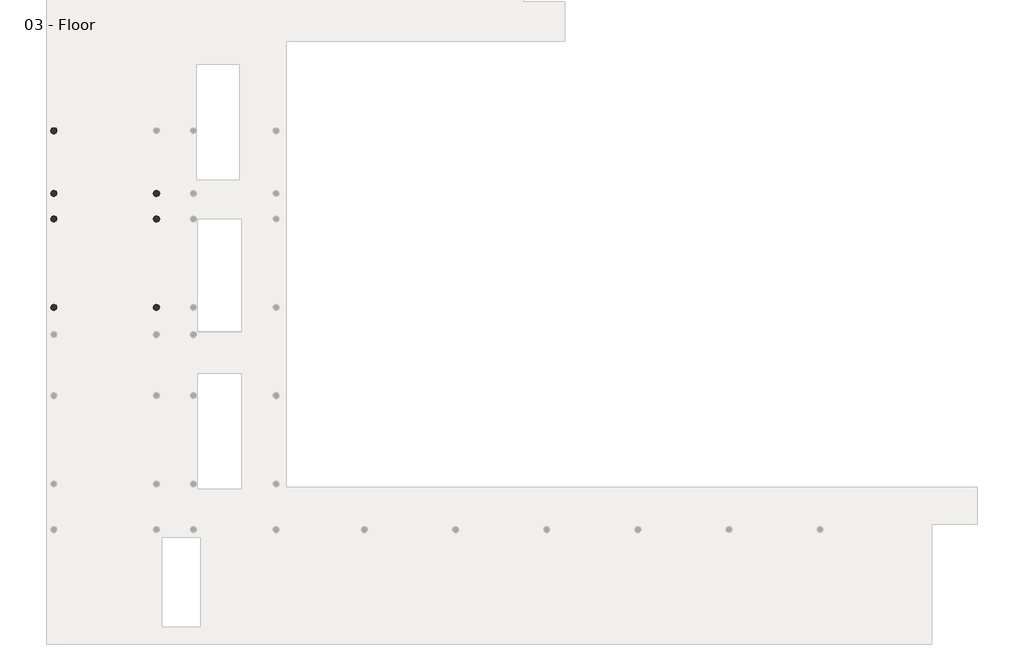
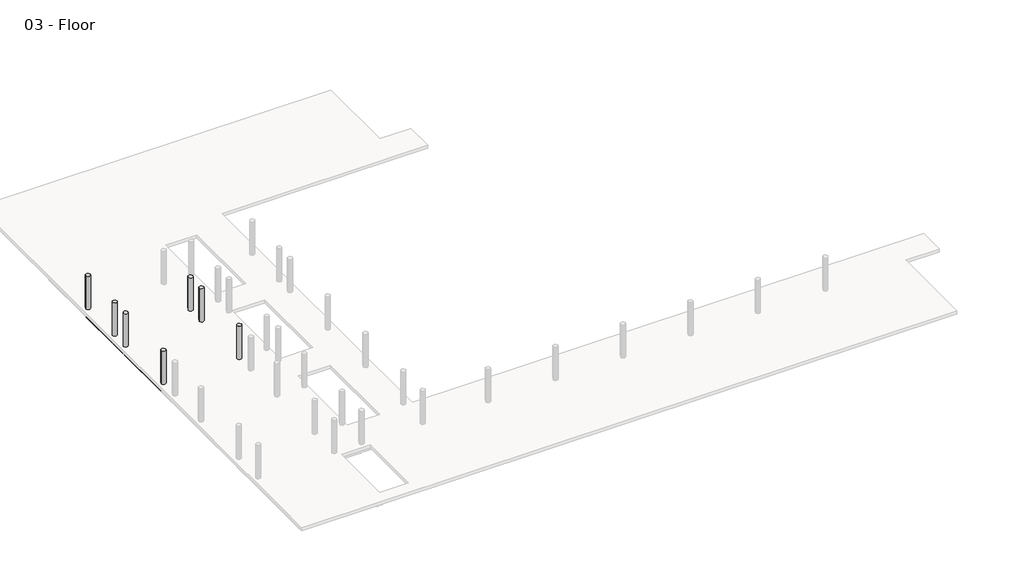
# One storey, part 5 of 8: 13 beams, 7 columns.
"""IFC4 building model written with IfcOpenShell, lengths in millimetres."""

from ifc_helpers import new_model, si_unit, point, frame, frame_2d, origin, place, context, project, spatial, polyline, circle_curve, trimmed, segment, composite_curve, outline, extrude, element, save
from ifc_brep_helpers import plane_surface, revolved_surface, advanced_brep

model = new_model("IFC4")

# Units and contexts
model_context = context("Model", 3, world=origin())
ifc_project = project(units=[si_unit("LENGTHUNIT", "METRE", prefix="MILLI")], contexts=[model_context])

# Site, building, storey
site = spatial("IfcSite", under=ifc_project)
building = spatial("IfcBuilding", under=site)
storey = spatial("IfcBuildingStorey", under=building, Name="03 - Floor", Elevation=7600.0)

# Beams
placement = place(None, origin())
element("IfcBeam", 1, ObjectType="M_Concrete-Rectangular Beam : 400 x 800mm", at=placement, inside=storey, context=model_context, shape_type="AdvancedBrep", body=[
    advanced_brep(
    [(-9401.9994416, 13025.0609793, 6800.0), (-9401.9994416, 8752.0162606, 6800.0), (-9401.9994416, 8752.0162606, 7300.0), (-9401.9994416, 13025.0609793, 7300.0), (-9098.921801, 12928.1386199, 6800.0), (-9001.9994416, 12928.1386199, 6800.0), (-9001.9994416, 8848.9386199, 6800.0), (-9001.9994416, 8752.0162606, 6800.0), (-9001.9994416, 12928.1386199, 7300.0), (-9001.9994416, 8848.9386199, 7300.0), (-9001.9994416, 8752.0162606, 7300.0), (-9098.921801, 12928.1386199, 7300.0)],
    [
        (0, 1),
        (1, 2),
        (2, 3),
        (3, 0),
        (0, 4, circle_curve(frame((-9201.9994416, 13128.1386199, 6800.0), z_axis=(0.0, 0.0, 1.0), x_axis=(-1.0, 0.0, 0.0)), 225.0)),
        (4, 5),
        (5, 6),
        (6, 7),
        (7, 1, circle_curve(frame((-9201.9994416, 8648.9386199, 6800.0), z_axis=(0.0, 0.0, 1.0), x_axis=(1.0, 0.0, 0.0)), 225.0)),
        (5, 8),
        (8, 9),
        (9, 10),
        (10, 7),
        (3, 11, circle_curve(frame((-9201.9994416, 13128.1386199, 7300.0), z_axis=(0.0, 0.0, 1.0), x_axis=(-1.0, 0.0, 0.0)), 225.0)),
        (11, 4),
        (11, 8),
        (10, 2, circle_curve(frame((-9201.9994416, 8648.9386199, 7300.0), z_axis=(0.0, 0.0, 1.0), x_axis=(1.0, 0.0, 0.0)), 225.0)),
    ],
    [
        plane_surface(frame((-9401.9994416, 8886.6386199, 7200.0), z_axis=(-1.0, 0.0, 0.0), x_axis=(0.0, 0.0, -1.0))),
        plane_surface(frame((-9201.9994416, 8886.6386199, 6800.0), z_axis=(0.0, 0.0, -1.0), x_axis=(1.0, 0.0, 0.0))),
        plane_surface(frame((-9001.9994416, 8886.6386199, 7200.0), z_axis=(1.0, 0.0, 0.0), x_axis=(0.0, 0.0, 1.0))),
        revolved_surface(polyline([(-9426.9994416, 13128.1386199, 7300.0), (-9426.9994416, 13128.1386199, 6800.0)]), (-9201.9994416, 13128.1386199, 3800.0), (0.0, 0.0, 1.0)),
        plane_surface(frame((-8964.2994416, 12928.1386199, 6800.0), z_axis=(0.0, 1.0, 0.0), x_axis=(1.0, 0.0, 0.0))),
        revolved_surface(polyline([(-8976.9994416, 8648.9386199, 7300.0), (-8976.9994416, 8648.9386199, 6800.0)]), (-9201.9994416, 8648.9386199, 3800.0), (0.0, 0.0, 1.0)),
        plane_surface(frame((24268.8999097, 30514.0407562, 7300.0), z_axis=(0.0, 0.0, 1.0), x_axis=(0.0, -1.0, 0.0))),
    ],
    [
        (0, [[1, 2, 3, 4]]),
        (1, [[5, 6, 7, 8, 9, -1]]),
        (2, [[-8, -7, 10, 11, 12, 13]]),
        (3, [[-5, -4, 14, 15]]),
        (4, [[-6, -15, 16, -10]]),
        (5, [[-9, -13, 17, -2]]),
        (6, [[-3, -17, -12, -11, -16, -14]]),
    ],
),
])
element("IfcBeam", 2, ObjectType="M_Concrete-Rectangular Beam : 400 x 800mm", at=placement, inside=storey, context=model_context, shape_type="AdvancedBrep", body=[
    advanced_brep(
    [(-9401.9994416, 8545.8609793, 6800.0), (-9401.9994416, 6932.0162606, 6800.0), (-9401.9994416, 6932.0162606, 7300.0), (-9401.9994416, 8545.8609793, 7300.0), (-9001.9994416, 6932.0162606, 6800.0), (-9098.921801, 8448.9386199, 6800.0), (-9001.9994416, 8448.9386199, 6800.0), (-9001.9994416, 7028.9386199, 6800.0), (-9001.9994416, 6932.0162606, 7300.0), (-9001.9994416, 8448.9386199, 7300.0), (-9001.9994416, 7028.9386199, 7300.0), (-9098.921801, 8448.9386199, 7300.0)],
    [
        (0, 1),
        (1, 2),
        (2, 3),
        (3, 0),
        (4, 1, circle_curve(frame((-9201.9994416, 6828.9386199, 6800.0), z_axis=(0.0, 0.0, 1.0), x_axis=(-1.0, 0.0, 0.0)), 225.0)),
        (0, 5, circle_curve(frame((-9201.9994416, 8648.9386199, 6800.0), z_axis=(0.0, 0.0, 1.0), x_axis=(1.0, 0.0, 0.0)), 225.0)),
        (5, 6),
        (6, 7),
        (7, 4),
        (8, 4),
        (6, 9),
        (9, 10),
        (10, 8),
        (8, 2, circle_curve(frame((-9201.9994416, 6828.9386199, 7300.0), z_axis=(0.0, 0.0, 1.0), x_axis=(-1.0, 0.0, 0.0)), 225.0)),
        (3, 11, circle_curve(frame((-9201.9994416, 8648.9386199, 7300.0), z_axis=(0.0, 0.0, 1.0), x_axis=(1.0, 0.0, 0.0)), 225.0)),
        (11, 5),
        (9, 11),
    ],
    [
        plane_surface(frame((-9401.9994416, 7066.6386199, 7200.0), z_axis=(-1.0, 0.0, 0.0), x_axis=(0.0, 0.0, -1.0))),
        plane_surface(frame((-9201.9994416, 7066.6386199, 6800.0), z_axis=(0.0, 0.0, -1.0), x_axis=(1.0, 0.0, 0.0))),
        plane_surface(frame((-9001.9994416, 7066.6386199, 7200.0), z_axis=(1.0, 0.0, 0.0), x_axis=(0.0, 0.0, 1.0))),
        revolved_surface(polyline([(-9426.9994416, 6828.9386199, 7300.0), (-9426.9994416, 6828.9386199, 6800.0)]), (-9201.9994416, 6828.9386199, 3800.0), (0.0, 0.0, 1.0)),
        revolved_surface(polyline([(-8976.9994416, 8648.9386199, 7300.0), (-8976.9994416, 8648.9386199, 6800.0)]), (-9201.9994416, 8648.9386199, 3800.0), (0.0, 0.0, 1.0)),
        plane_surface(frame((24268.8999097, 30514.0407562, 7300.0), z_axis=(0.0, 0.0, 1.0), x_axis=(0.0, -1.0, 0.0))),
        plane_surface(frame((-2124.4994416, 8448.9386199, 7600.0), z_axis=(0.0, 1.0, 0.0), x_axis=(-1.0, 0.0, 0.0))),
    ],
    [
        (0, [[1, 2, 3, 4]]),
        (1, [[5, -1, 6, 7, 8, 9]]),
        (2, [[10, -9, -8, 11, 12, 13]]),
        (3, [[-5, -10, 14, -2]]),
        (4, [[-4, 15, 16, -6]]),
        (5, [[-3, -14, -13, -12, 17, -15]]),
        (6, [[-7, -16, -17, -11]]),
    ],
),
])
element("IfcBeam", 3, ObjectType="M_Concrete-Rectangular Beam : 400 x 800mm", at=placement, inside=storey, context=model_context, shape_type="AdvancedBrep", body=[
    advanced_brep(
    [(-9401.9994416, 6725.8609793, 6800.0), (-9401.9994416, 632.8162606, 6800.0), (-9401.9994416, 632.8162606, 7300.0), (-9401.9994416, 6725.8609793, 7300.0), (-9098.921801, 6628.9386199, 6800.0), (-9001.9994416, 6628.9386199, 6800.0), (-9001.9994416, 729.7386199, 6800.0), (-9001.9994416, 632.8162606, 6800.0), (-9001.9994416, 6628.9386199, 7300.0), (-9001.9994416, 729.7386199, 7300.0), (-9001.9994416, 632.8162606, 7300.0), (-9098.921801, 6628.9386199, 7300.0)],
    [
        (0, 1),
        (1, 2),
        (2, 3),
        (3, 0),
        (0, 4, circle_curve(frame((-9201.9994416, 6828.9386199, 6800.0), z_axis=(0.0, 0.0, 1.0), x_axis=(-1.0, 0.0, 0.0)), 225.0)),
        (4, 5),
        (5, 6),
        (6, 7),
        (7, 1, circle_curve(frame((-9201.9994416, 529.7386199, 6800.0), z_axis=(0.0, 0.0, 1.0), x_axis=(-1.0, 0.0, 0.0)), 225.0)),
        (5, 8),
        (8, 9),
        (9, 10),
        (10, 7),
        (3, 11, circle_curve(frame((-9201.9994416, 6828.9386199, 7300.0), z_axis=(0.0, 0.0, 1.0), x_axis=(-1.0, 0.0, 0.0)), 225.0)),
        (11, 4),
        (11, 8),
        (10, 2, circle_curve(frame((-9201.9994416, 529.7386199, 7300.0), z_axis=(0.0, 0.0, 1.0), x_axis=(-1.0, 0.0, 0.0)), 225.0)),
    ],
    [
        plane_surface(frame((-9401.9994416, 767.4386199, 7200.0), z_axis=(-1.0, 0.0, 0.0), x_axis=(0.0, 0.0, -1.0))),
        plane_surface(frame((-9201.9994416, 767.4386199, 6800.0), z_axis=(0.0, 0.0, -1.0), x_axis=(1.0, 0.0, 0.0))),
        plane_surface(frame((-9001.9994416, 767.4386199, 7200.0), z_axis=(1.0, 0.0, 0.0), x_axis=(0.0, 0.0, 1.0))),
        revolved_surface(polyline([(-9426.9994416, 6828.9386199, 7300.0), (-9426.9994416, 6828.9386199, 6800.0)]), (-9201.9994416, 6828.9386199, 3800.0), (0.0, 0.0, 1.0)),
        plane_surface(frame((-8964.2994416, 6628.9386199, 6800.0), z_axis=(0.0, 1.0, 0.0), x_axis=(1.0, 0.0, 0.0))),
        revolved_surface(polyline([(-9426.9994416, 529.7386199, 7300.0), (-9426.9994416, 529.7386199, 6800.0)]), (-9201.9994416, 529.7386199, 3800.0), (0.0, 0.0, 1.0)),
        plane_surface(frame((24268.8999097, 30514.0407562, 7300.0), z_axis=(0.0, 0.0, 1.0), x_axis=(0.0, -1.0, 0.0))),
    ],
    [
        (0, [[1, 2, 3, 4]]),
        (1, [[5, 6, 7, 8, 9, -1]]),
        (2, [[-8, -7, 10, 11, 12, 13]]),
        (3, [[-5, -4, 14, 15]]),
        (4, [[-6, -15, 16, -10]]),
        (5, [[-9, -13, 17, -2]]),
        (6, [[-3, -17, -12, -11, -16, -14]]),
    ],
),
])
element("IfcBeam", 4, ObjectType="M_Concrete-Rectangular Beam : 400 x 800mm", at=placement, inside=storey, context=model_context, shape_type="AdvancedBrep", body=[
    advanced_brep(
    [(554.8005584, 7028.9386199, 6800.0), (-1586.7994416, 7028.9386199, 6800.0), (-1586.7994416, 7028.9386199, 7300.0), (554.8005584, 7028.9386199, 7300.0), (554.8005584, 6932.0162606, 6800.0), (529.8005584, 6828.9386199, 6800.0), (651.7229178, 6628.9386199, 6800.0), (554.8005584, 6628.9386199, 6800.0), (-1586.7994416, 6628.9386199, 6800.0), (651.7229178, 6628.9386199, 7300.0), (554.8005584, 6628.9386199, 7300.0), (-1586.7994416, 6628.9386199, 7300.0), (554.8005584, 6932.0162606, 7300.0), (529.8005584, 6828.9386199, 7300.0)],
    [
        (0, 1),
        (1, 2),
        (2, 3),
        (3, 0),
        (0, 4),
        (4, 5, circle_curve(frame((754.8005584, 6828.9386199, 6800.0), z_axis=(0.0, 0.0, 1.0), x_axis=(-1.0, 0.0, 0.0)), 225.0)),
        (5, 6, circle_curve(frame((754.8005584, 6828.9386199, 6800.0), z_axis=(0.0, 0.0, 1.0), x_axis=(-1.0, 0.0, 0.0)), 225.0)),
        (6, 7),
        (7, 8),
        (8, 1),
        (6, 9),
        (9, 10),
        (10, 11),
        (11, 8),
        (3, 12),
        (12, 4),
        (5, 13),
        (13, 9, circle_curve(frame((754.8005584, 6828.9386199, 7300.0), z_axis=(0.0, 0.0, 1.0), x_axis=(-1.0, 0.0, 0.0)), 225.0)),
        (12, 13, circle_curve(frame((754.8005584, 6828.9386199, 7300.0), z_axis=(0.0, 0.0, 1.0), x_axis=(-1.0, 0.0, 0.0)), 225.0)),
        (11, 2),
    ],
    [
        plane_surface(frame((-1649.0994416, 7028.9386199, 7200.0), z_axis=(0.0, 1.0, 0.0), x_axis=(0.0, 0.0, -1.0))),
        plane_surface(frame((-1649.0994416, 6828.9386199, 6800.0), z_axis=(0.0, 0.0, -1.0), x_axis=(0.0, -1.0, 0.0))),
        plane_surface(frame((-1649.0994416, 6628.9386199, 7200.0), z_axis=(0.0, -1.0, 0.0), x_axis=(0.0, 0.0, 1.0))),
        plane_surface(frame((554.8005584, 7066.6386199, 7200.0), z_axis=(1.0, 0.0, 0.0), x_axis=(0.0, 0.0, -1.0))),
        revolved_surface(polyline([(529.8005584, 6828.9386199, 7300.0), (529.8005584, 6828.9386199, 6800.0)]), (754.8005584, 6828.9386199, 3800.0), (0.0, 0.0, 1.0)),
        plane_surface(frame((-1586.7994416, 7066.6386199, 7150.0), z_axis=(-1.0, 0.0, 0.0), x_axis=(0.0, 0.0, 1.0))),
        plane_surface(frame((24268.8999097, 30514.0407562, 7300.0), z_axis=(0.0, 0.0, 1.0), x_axis=(0.0, -1.0, 0.0))),
    ],
    [
        (0, [[1, 2, 3, 4]]),
        (1, [[5, 6, 7, 8, 9, 10, -1]]),
        (2, [[-9, -8, 11, 12, 13, 14]]),
        (3, [[-5, -4, 15, 16]]),
        (4, [[-7, 17, 18, -11]]),
        (4, [[-6, -16, 19, -17]]),
        (5, [[-10, -14, 20, -2]]),
        (6, [[-3, -20, -13, -12, -18, -19, -15]]),
    ],
),
])
element("IfcBeam", 5, ObjectType="M_Concrete-Rectangular Beam : 400 x 800mm", at=placement, inside=storey, context=model_context, shape_type="AdvancedBrep", body=[
    advanced_brep(
    [(-2186.7994416, 7028.9386199, 6800.0), (-9001.9994416, 7028.9386199, 6800.0), (-9001.9994416, 7028.9386199, 7300.0), (-2186.7994416, 7028.9386199, 7300.0), (-9001.9994416, 6932.0162606, 6800.0), (-2186.7994416, 6628.9386199, 6800.0), (-9001.9994416, 6628.9386199, 6800.0), (-9098.921801, 6628.9386199, 6800.0), (-8976.9994416, 6828.9386199, 6800.0), (-2186.7994416, 6628.9386199, 7300.0), (-9001.9994416, 6628.9386199, 7300.0), (-9098.921801, 6628.9386199, 7300.0), (-9001.9994416, 6932.0162606, 7300.0), (-8976.9994416, 6828.9386199, 7300.0)],
    [
        (0, 1),
        (1, 2),
        (2, 3),
        (3, 0),
        (4, 1),
        (0, 5),
        (5, 6),
        (6, 7),
        (7, 8, circle_curve(frame((-9201.9994416, 6828.9386199, 6800.0), z_axis=(0.0, 0.0, 1.0), x_axis=(-1.0, 0.0, 0.0)), 225.0)),
        (8, 4, circle_curve(frame((-9201.9994416, 6828.9386199, 6800.0), z_axis=(0.0, 0.0, 1.0), x_axis=(-1.0, 0.0, 0.0)), 225.0)),
        (5, 9),
        (9, 10),
        (10, 11),
        (11, 7),
        (4, 12),
        (12, 2),
        (11, 13, circle_curve(frame((-9201.9994416, 6828.9386199, 7300.0), z_axis=(0.0, 0.0, 1.0), x_axis=(-1.0, 0.0, 0.0)), 225.0)),
        (13, 8),
        (13, 12, circle_curve(frame((-9201.9994416, 6828.9386199, 7300.0), z_axis=(0.0, 0.0, 1.0), x_axis=(-1.0, 0.0, 0.0)), 225.0)),
        (3, 9),
    ],
    [
        plane_surface(frame((-8964.2994416, 7028.9386199, 7600.0), z_axis=(0.0, 1.0, 0.0), x_axis=(1.0, 0.0, 0.0))),
        plane_surface(frame((-8964.2994416, 7028.9386199, 6800.0), z_axis=(0.0, 0.0, -1.0), x_axis=(1.0, 0.0, 0.0))),
        plane_surface(frame((-8964.2994416, 6628.9386199, 6800.0), z_axis=(0.0, -1.0, 0.0), x_axis=(1.0, 0.0, 0.0))),
        plane_surface(frame((-9001.9994416, 7066.6386199, 7200.0), z_axis=(-1.0, 0.0, 0.0), x_axis=(0.0, 0.0, 1.0))),
        revolved_surface(polyline([(-9426.9994416, 6828.9386199, 7300.0), (-9426.9994416, 6828.9386199, 6800.0)]), (-9201.9994416, 6828.9386199, 3800.0), (0.0, 0.0, 1.0)),
        plane_surface(frame((-2186.7994416, 7052.8677035, 6700.0), z_axis=(1.0, 0.0, 0.0), x_axis=(0.0, -1.0, 0.0))),
        plane_surface(frame((24268.8999097, 30514.0407562, 7300.0), z_axis=(0.0, 0.0, 1.0), x_axis=(0.0, -1.0, 0.0))),
    ],
    [
        (0, [[1, 2, 3, 4]]),
        (1, [[5, -1, 6, 7, 8, 9, 10]]),
        (2, [[-8, -7, 11, 12, 13, 14]]),
        (3, [[-5, 15, 16, -2]]),
        (4, [[-9, -14, 17, 18]]),
        (4, [[-10, -18, 19, -15]]),
        (5, [[-6, -4, 20, -11]]),
        (6, [[-3, -16, -19, -17, -13, -12, -20]]),
    ],
),
])
element("IfcBeam", 6, ObjectType="M_Concrete-Rectangular Beam : 400 x 800mm", at=placement, inside=storey, context=model_context, shape_type="AdvancedBrep", body=[
    advanced_brep(
    [(554.8005584, 729.7386199, 6800.0), (-1586.7994416, 729.7386199, 6800.0), (-1586.7994416, 729.7386199, 7300.0), (554.8005584, 729.7386199, 7300.0), (554.8005584, 632.8162606, 6800.0), (529.8005584, 529.7386199, 6800.0), (651.7229178, 329.7386199, 6800.0), (554.8005584, 329.7386199, 6800.0), (-1586.7994416, 329.7386199, 6800.0), (651.7229178, 329.7386199, 7300.0), (554.8005584, 329.7386199, 7300.0), (-1586.7994416, 329.7386199, 7300.0), (554.8005584, 632.8162606, 7300.0), (529.8005584, 529.7386199, 7300.0)],
    [
        (0, 1),
        (1, 2),
        (2, 3),
        (3, 0),
        (0, 4),
        (4, 5, circle_curve(frame((754.8005584, 529.7386199, 6800.0), z_axis=(0.0, 0.0, 1.0), x_axis=(-1.0, 0.0, 0.0)), 225.0)),
        (5, 6, circle_curve(frame((754.8005584, 529.7386199, 6800.0), z_axis=(0.0, 0.0, 1.0), x_axis=(-1.0, 0.0, 0.0)), 225.0)),
        (6, 7),
        (7, 8),
        (8, 1),
        (6, 9),
        (9, 10),
        (10, 11),
        (11, 8),
        (3, 12),
        (12, 4),
        (5, 13),
        (13, 9, circle_curve(frame((754.8005584, 529.7386199, 7300.0), z_axis=(0.0, 0.0, 1.0), x_axis=(-1.0, 0.0, 0.0)), 225.0)),
        (12, 13, circle_curve(frame((754.8005584, 529.7386199, 7300.0), z_axis=(0.0, 0.0, 1.0), x_axis=(-1.0, 0.0, 0.0)), 225.0)),
        (11, 2),
    ],
    [
        plane_surface(frame((-1649.0994416, 729.7386199, 7200.0), z_axis=(0.0, 1.0, 0.0), x_axis=(0.0, 0.0, -1.0))),
        plane_surface(frame((-1649.0994416, 529.7386199, 6800.0), z_axis=(0.0, 0.0, -1.0), x_axis=(0.0, -1.0, 0.0))),
        plane_surface(frame((-1649.0994416, 329.7386199, 7200.0), z_axis=(0.0, -1.0, 0.0), x_axis=(0.0, 0.0, 1.0))),
        plane_surface(frame((554.8005584, 767.4386199, 7200.0), z_axis=(1.0, 0.0, 0.0), x_axis=(0.0, 0.0, -1.0))),
        revolved_surface(polyline([(529.8005584, 529.7386199, 7300.0), (529.8005584, 529.7386199, 6800.0)]), (754.8005584, 529.7386199, 3800.0), (0.0, 0.0, 1.0)),
        plane_surface(frame((-1586.7994416, 767.4386199, 7150.0), z_axis=(-1.0, 0.0, 0.0), x_axis=(0.0, 0.0, 1.0))),
        plane_surface(frame((24268.8999097, 30514.0407562, 7300.0), z_axis=(0.0, 0.0, 1.0), x_axis=(0.0, -1.0, 0.0))),
    ],
    [
        (0, [[1, 2, 3, 4]]),
        (1, [[5, 6, 7, 8, 9, 10, -1]]),
        (2, [[-9, -8, 11, 12, 13, 14]]),
        (3, [[-5, -4, 15, 16]]),
        (4, [[-7, 17, 18, -11]]),
        (4, [[-6, -16, 19, -17]]),
        (5, [[-10, -14, 20, -2]]),
        (6, [[-3, -20, -13, -12, -18, -19, -15]]),
    ],
),
])
element("IfcBeam", 7, ObjectType="M_Concrete-Rectangular Beam : 400 x 800mm", at=placement, inside=storey, context=model_context, shape_type="AdvancedBrep", body=[
    advanced_brep(
    [(-2186.7994416, 729.7386199, 6800.0), (-9001.9994416, 729.7386199, 6800.0), (-9001.9994416, 729.7386199, 7300.0), (-2186.7994416, 729.7386199, 7300.0), (-9001.9994416, 632.8162606, 6800.0), (-2186.7994416, 329.7386199, 6800.0), (-9001.9994416, 329.7386199, 6800.0), (-9098.921801, 329.7386199, 6800.0), (-8976.9994416, 529.7386199, 6800.0), (-2186.7994416, 329.7386199, 7300.0), (-9001.9994416, 329.7386199, 7300.0), (-9098.921801, 329.7386199, 7300.0), (-9001.9994416, 632.8162606, 7300.0), (-8976.9994416, 529.7386199, 7300.0)],
    [
        (0, 1),
        (1, 2),
        (2, 3),
        (3, 0),
        (4, 1),
        (0, 5),
        (5, 6),
        (6, 7),
        (7, 8, circle_curve(frame((-9201.9994416, 529.7386199, 6800.0), z_axis=(0.0, 0.0, 1.0), x_axis=(-1.0, 0.0, 0.0)), 225.0)),
        (8, 4, circle_curve(frame((-9201.9994416, 529.7386199, 6800.0), z_axis=(0.0, 0.0, 1.0), x_axis=(-1.0, 0.0, 0.0)), 225.0)),
        (5, 9),
        (9, 10),
        (10, 11),
        (11, 7),
        (4, 12),
        (12, 2),
        (11, 13, circle_curve(frame((-9201.9994416, 529.7386199, 7300.0), z_axis=(0.0, 0.0, 1.0), x_axis=(-1.0, 0.0, 0.0)), 225.0)),
        (13, 8),
        (13, 12, circle_curve(frame((-9201.9994416, 529.7386199, 7300.0), z_axis=(0.0, 0.0, 1.0), x_axis=(-1.0, 0.0, 0.0)), 225.0)),
        (3, 9),
    ],
    [
        plane_surface(frame((-8964.2994416, 729.7386199, 7600.0), z_axis=(0.0, 1.0, 0.0), x_axis=(1.0, 0.0, 0.0))),
        plane_surface(frame((-8964.2994416, 729.7386199, 6800.0), z_axis=(0.0, 0.0, -1.0), x_axis=(1.0, 0.0, 0.0))),
        plane_surface(frame((-8964.2994416, 329.7386199, 6800.0), z_axis=(0.0, -1.0, 0.0), x_axis=(1.0, 0.0, 0.0))),
        plane_surface(frame((-9001.9994416, 767.4386199, 7200.0), z_axis=(-1.0, 0.0, 0.0), x_axis=(0.0, 0.0, 1.0))),
        revolved_surface(polyline([(-9426.9994416, 529.7386199, 7300.0), (-9426.9994416, 529.7386199, 6800.0)]), (-9201.9994416, 529.7386199, 3800.0), (0.0, 0.0, 1.0)),
        plane_surface(frame((-2186.7994416, 753.6677035, 6700.0), z_axis=(1.0, 0.0, 0.0), x_axis=(0.0, -1.0, 0.0))),
        plane_surface(frame((24268.8999097, 30514.0407562, 7300.0), z_axis=(0.0, 0.0, 1.0), x_axis=(0.0, -1.0, 0.0))),
    ],
    [
        (0, [[1, 2, 3, 4]]),
        (1, [[5, -1, 6, 7, 8, 9, 10]]),
        (2, [[-8, -7, 11, 12, 13, 14]]),
        (3, [[-5, 15, 16, -2]]),
        (4, [[-9, -14, 17, 18]]),
        (4, [[-10, -18, 19, -15]]),
        (5, [[-6, -4, 20, -11]]),
        (6, [[-3, -16, -19, -17, -13, -12, -20]]),
    ],
),
])
element("IfcBeam", 8, ObjectType="M_Concrete-Rectangular Beam : 400 x 800mm", at=placement, inside=storey, context=model_context, shape_type="AdvancedBrep", body=[
    advanced_brep(
    [(45561.878199, -15119.8613801, 6800.0), (45561.878199, -15119.8613801, 7300.0), (45658.8005584, -15119.8613801, 7300.0), (53429.578114, -15119.8613801, 7300.0), (53429.578114, -15119.8613801, 6800.0), (45658.8005584, -15119.8613801, 6800.0), (45658.8005584, -15519.8613801, 6800.0), (45658.8005584, -15422.9390207, 6800.0), (45683.8005584, -15319.8613801, 6800.0), (53429.578114, -15519.8613801, 6800.0), (45658.8005584, -15519.8613801, 7300.0), (53429.578114, -15519.8613801, 7300.0), (45658.8005584, -15422.9390207, 7300.0), (45683.8005584, -15319.8613801, 7300.0)],
    [
        (0, 1),
        (1, 2),
        (2, 3),
        (3, 4),
        (4, 5),
        (5, 0),
        (6, 7),
        (7, 8, circle_curve(frame((45458.8005584, -15319.8613801, 6800.0), z_axis=(0.0, 0.0, 1.0), x_axis=(-1.0, 0.0, 0.0)), 225.0)),
        (8, 0, circle_curve(frame((45458.8005584, -15319.8613801, 6800.0), z_axis=(0.0, 0.0, 1.0), x_axis=(-1.0, 0.0, 0.0)), 225.0)),
        (4, 9),
        (9, 6),
        (10, 6),
        (9, 11),
        (11, 10),
        (10, 12),
        (12, 7),
        (12, 13, circle_curve(frame((45458.8005584, -15319.8613801, 7300.0), z_axis=(0.0, 0.0, 1.0), x_axis=(-1.0, 0.0, 0.0)), 225.0)),
        (13, 8),
        (13, 1, circle_curve(frame((45458.8005584, -15319.8613801, 7300.0), z_axis=(0.0, 0.0, 1.0), x_axis=(-1.0, 0.0, 0.0)), 225.0)),
        (11, 3),
    ],
    [
        plane_surface(frame((45696.5005584, -15119.8613801, 7200.0), z_axis=(0.0, 1.0, 0.0), x_axis=(0.0, 0.0, -1.0))),
        plane_surface(frame((45696.5005584, -15319.8613801, 6800.0), z_axis=(0.0, 0.0, -1.0), x_axis=(0.0, -1.0, 0.0))),
        plane_surface(frame((45696.5005584, -15519.8613801, 7200.0), z_axis=(0.0, -1.0, 0.0), x_axis=(0.0, 0.0, 1.0))),
        plane_surface(frame((45658.8005584, -22397.3613801, 6800.0), z_axis=(-1.0, 0.0, 0.0), x_axis=(0.0, 1.0, 0.0))),
        revolved_surface(polyline([(45233.8005584, -15319.8613801, 7300.0), (45233.8005584, -15319.8613801, 6800.0)]), (45458.8005584, -15319.8613801, 3800.0), (0.0, 0.0, 1.0)),
        plane_surface(frame((24268.8999097, 30514.0407562, 7300.0), z_axis=(0.0, 0.0, 1.0), x_axis=(0.0, -1.0, 0.0))),
        plane_surface(frame((53429.578114, -14931.1613815, 0.0), z_axis=(1.0, 0.0, 0.0), x_axis=(0.0, -1.0, 0.0))),
    ],
    [
        (0, [[1, 2, 3, 4, 5, 6]]),
        (1, [[7, 8, 9, -6, -5, 10, 11]]),
        (2, [[12, -11, 13, 14]]),
        (3, [[-7, -12, 15, 16]]),
        (4, [[-8, -16, 17, 18]]),
        (4, [[-9, -18, 19, -1]]),
        (5, [[-3, -2, -19, -17, -15, -14, 20]]),
        (6, [[-4, -20, -13, -10]]),
    ],
),
])
element("IfcBeam", 9, ObjectType="M_Concrete-Rectangular Beam : 400 x 800mm", at=placement, inside=storey, context=model_context, shape_type="AdvancedBrep", body=[
    advanced_brep(
    [(-9001.9994416, 8752.0162606, 6800.0), (-8976.9994416, 8648.9386199, 6800.0), (-8976.9994416, 8648.9386199, 7300.0), (-9001.9994416, 8752.0162606, 7300.0), (-9098.921801, 8448.9386199, 6800.0), (-9098.921801, 8448.9386199, 7300.0), (-9001.9994416, 8848.9386199, 6800.0), (-9001.9994416, 8848.9386199, 7300.0), (-9001.9994416, 8448.9386199, 6800.0), (-2186.7994416, 8448.9386199, 6800.0), (-2186.7994416, 8448.9386199, 7300.0), (-9001.9994416, 8448.9386199, 7300.0), (-2186.7994416, 8848.9386199, 6800.0), (-2186.7994416, 8848.9386199, 7300.0)],
    [
        (0, 1, circle_curve(frame((-9201.9994416, 8648.9386199, 6800.0), z_axis=(0.0, 0.0, -1.0), x_axis=(1.0, 0.0, 0.0)), 225.0)),
        (1, 2),
        (2, 3, circle_curve(frame((-9201.9994416, 8648.9386199, 7300.0), z_axis=(0.0, 0.0, 1.0), x_axis=(1.0, 0.0, 0.0)), 225.0)),
        (3, 0),
        (1, 4, circle_curve(frame((-9201.9994416, 8648.9386199, 6800.0), z_axis=(0.0, 0.0, -1.0), x_axis=(1.0, 0.0, 0.0)), 225.0)),
        (4, 5),
        (5, 2, circle_curve(frame((-9201.9994416, 8648.9386199, 7300.0), z_axis=(0.0, 0.0, 1.0), x_axis=(1.0, 0.0, 0.0)), 225.0)),
        (6, 0),
        (3, 7),
        (7, 6),
        (4, 8),
        (8, 9),
        (9, 10),
        (10, 11),
        (11, 5),
        (6, 12),
        (12, 9),
        (7, 13),
        (13, 12),
        (13, 10),
    ],
    [
        revolved_surface(polyline([(-8976.9994416, 8648.9386199, 7300.0), (-8976.9994416, 8648.9386199, 6800.0)]), (-9201.9994416, 8648.9386199, 3800.0), (0.0, 0.0, 1.0)),
        plane_surface(frame((-9001.9994416, 8886.6386199, 7200.0), z_axis=(-1.0, 0.0, 0.0), x_axis=(0.0, 0.0, 1.0))),
        plane_surface(frame((-2124.4994416, 8448.9386199, 7600.0), z_axis=(0.0, -1.0, 0.0), x_axis=(-1.0, 0.0, 0.0))),
        plane_surface(frame((-2124.4994416, 8448.9386199, 6800.0), z_axis=(0.0, 0.0, -1.0), x_axis=(-1.0, 0.0, 0.0))),
        plane_surface(frame((-2124.4994416, 8848.9386199, 6800.0), z_axis=(0.0, 1.0, 0.0), x_axis=(-1.0, 0.0, 0.0))),
        plane_surface(frame((-2186.7994416, 8886.6386199, 7150.0), z_axis=(1.0, 0.0, 0.0), x_axis=(0.0, 0.0, -1.0))),
        plane_surface(frame((24268.8999097, 30514.0407562, 7300.0), z_axis=(0.0, 0.0, 1.0), x_axis=(0.0, -1.0, 0.0))),
    ],
    [
        (0, [[1, 2, 3, 4]]),
        (0, [[5, 6, 7, -2]]),
        (1, [[8, -4, 9, 10]]),
        (2, [[11, 12, 13, 14, 15, -6]]),
        (3, [[-5, -1, -8, 16, 17, -12, -11]]),
        (4, [[-16, -10, 18, 19]]),
        (5, [[-17, -19, 20, -13]]),
        (6, [[-3, -7, -15, -14, -20, -18, -9]]),
    ],
),
])
element("IfcBeam", 10, ObjectType="M_Concrete-Rectangular Beam : 400 x 800mm", at=placement, inside=storey, context=model_context, shape_type="AdvancedBrep", body=[
    advanced_brep(
    [(529.8005584, 8648.9386199, 6800.0), (554.8005584, 8752.0162606, 6800.0), (554.8005584, 8752.0162606, 7300.0), (529.8005584, 8648.9386199, 7300.0), (651.7229178, 8448.9386199, 6800.0), (651.7229178, 8448.9386199, 7300.0), (554.8005584, 8848.9386199, 6800.0), (554.8005584, 8848.9386199, 7300.0), (-1586.7994416, 8448.9386199, 6800.0), (554.8005584, 8448.9386199, 6800.0), (554.8005584, 8448.9386199, 7300.0), (-1586.7994416, 8448.9386199, 7300.0), (-1586.7994416, 8848.9386199, 6800.0), (-1586.7994416, 8848.9386199, 7300.0)],
    [
        (0, 1, circle_curve(frame((754.8005584, 8648.9386199, 6800.0), z_axis=(0.0, 0.0, -1.0), x_axis=(1.0, 0.0, 0.0)), 225.0)),
        (1, 2),
        (2, 3, circle_curve(frame((754.8005584, 8648.9386199, 7300.0), z_axis=(0.0, 0.0, 1.0), x_axis=(1.0, 0.0, 0.0)), 225.0)),
        (3, 0),
        (4, 0, circle_curve(frame((754.8005584, 8648.9386199, 6800.0), z_axis=(0.0, 0.0, -1.0), x_axis=(1.0, 0.0, 0.0)), 225.0)),
        (3, 5, circle_curve(frame((754.8005584, 8648.9386199, 7300.0), z_axis=(0.0, 0.0, 1.0), x_axis=(1.0, 0.0, 0.0)), 225.0)),
        (5, 4),
        (1, 6),
        (6, 7),
        (7, 2),
        (8, 9),
        (9, 4),
        (5, 10),
        (10, 11),
        (11, 8),
        (8, 12),
        (12, 6),
        (12, 13),
        (13, 7),
        (11, 13),
    ],
    [
        revolved_surface(polyline([(979.8005584, 8648.9386199, 7300.0), (979.8005584, 8648.9386199, 6800.0)]), (754.8005584, 8648.9386199, 3800.0), (0.0, 0.0, 1.0)),
        plane_surface(frame((554.8005584, 8886.6386199, 7200.0), z_axis=(1.0, 0.0, 0.0), x_axis=(0.0, 0.0, -1.0))),
        plane_surface(frame((517.1005584, 8448.9386199, 7200.0), z_axis=(0.0, -1.0, 0.0), x_axis=(0.0, 0.0, -1.0))),
        plane_surface(frame((517.1005584, 8648.9386199, 6800.0), z_axis=(0.0, 0.0, -1.0), x_axis=(0.0, 1.0, 0.0))),
        plane_surface(frame((517.1005584, 8848.9386199, 7200.0), z_axis=(0.0, 1.0, 0.0), x_axis=(0.0, 0.0, 1.0))),
        plane_surface(frame((-1586.7994416, 7066.6386199, 7150.0), z_axis=(-1.0, 0.0, 0.0), x_axis=(0.0, 0.0, 1.0))),
        plane_surface(frame((24268.8999097, 30514.0407562, 7300.0), z_axis=(0.0, 0.0, 1.0), x_axis=(0.0, -1.0, 0.0))),
    ],
    [
        (0, [[1, 2, 3, 4]]),
        (0, [[5, -4, 6, 7]]),
        (1, [[8, 9, 10, -2]]),
        (2, [[11, 12, -7, 13, 14, 15]]),
        (3, [[-5, -12, -11, 16, 17, -8, -1]]),
        (4, [[-17, 18, 19, -9]]),
        (5, [[-16, -15, 20, -18]]),
        (6, [[-3, -10, -19, -20, -14, -13, -6]]),
    ],
),
])
element("IfcBeam", 11, ObjectType="M_Concrete-Rectangular Beam : 400 x 800mm", at=placement, inside=storey, context=model_context, shape_type="SweptSolid", body=[
    extrude(outline(composite_curve([segment(polyline([(45258.8005584, -12296.3611817), (45658.8005584, -12296.3611817), (45658.8005584, -15119.8613801), (45561.878199, -15119.8613801)]), True, "CONTINUOUS"), segment(trimmed(circle_curve(frame_2d((45458.8005584, -15319.8613801)), 225.0), [point((45561.878199, -15119.8613801))], [point((45355.7229178, -15119.8613801))], True, "CARTESIAN"), True, "CONTINUOUS"), segment(polyline([(45355.7229178, -15119.8613801), (45258.8005584, -15119.8613801), (45258.8005584, -12296.3611817)]), True, "CONTINUOUS")], self_intersect=False)), frame((0.0, 0.0, 6800.0), z_axis=(0.0, 0.0, 1.0), x_axis=(1.0, 0.0, 0.0)), (0.0, 0.0, 1.0), 500.0),
])
element("IfcBeam", 12, ObjectType="M_Concrete-Rectangular Beam : 600 x 900", at=placement, inside=storey, context=model_context, shape_type="AdvancedBrep", body=[
    advanced_brep(
    [(-2186.7994416, 8448.9386199, 6700.0), (-2186.7994416, 6628.9386199, 6700.0), (-2186.7994416, 6628.9386199, 6800.0), (-2186.7994416, 6628.9386199, 7300.0), (-2186.7994416, 7028.9386199, 7300.0), (-2186.7994416, 8448.9386199, 7300.0), (-1989.8770822, 6628.9386199, 6700.0), (-1989.8770822, 8448.9386199, 6700.0), (-1783.721801, 8448.9386199, 6700.0), (-1586.7994416, 8448.9386199, 6700.0), (-1586.7994416, 6628.9386199, 6700.0), (-1783.721801, 6628.9386199, 6700.0), (-1661.7994416, 6828.9386199, 6700.0), (-2111.7994416, 6828.9386199, 6700.0), (-1586.7994416, 8448.9386199, 7300.0), (-1586.7994416, 7028.9386199, 7300.0), (-1586.7994416, 6628.9386199, 7300.0), (-1586.7994416, 6628.9386199, 6800.0), (-1783.721801, 6628.9386199, 7300.0), (-2111.7994416, 6828.9386199, 7300.0), (-1989.8770822, 6628.9386199, 7300.0), (-1661.7994416, 6828.9386199, 7300.0), (-1989.8770822, 8448.9386199, 7300.0), (-1783.721801, 8448.9386199, 7300.0)],
    [
        (0, 1),
        (1, 2),
        (2, 3),
        (3, 4),
        (4, 5),
        (5, 0),
        (6, 1),
        (0, 7),
        (7, 8, circle_curve(frame((-1886.7994416, 8648.9386199, 6700.0), z_axis=(0.0, 0.0, 1.0), x_axis=(1.0, 0.0, 0.0)), 225.0)),
        (8, 9),
        (9, 10),
        (10, 11),
        (11, 12, circle_curve(frame((-1886.7994416, 6828.9386199, 6700.0), z_axis=(0.0, 0.0, 1.0), x_axis=(-1.0, 0.0, 0.0)), 225.0)),
        (12, 13, circle_curve(frame((-1886.7994416, 6828.9386199, 6700.0), z_axis=(0.0, 0.0, 1.0), x_axis=(-1.0, 0.0, 0.0)), 225.0)),
        (13, 6, circle_curve(frame((-1886.7994416, 6828.9386199, 6700.0), z_axis=(0.0, 0.0, 1.0), x_axis=(-1.0, 0.0, 0.0)), 225.0)),
        (9, 14),
        (14, 15),
        (15, 16),
        (16, 17),
        (17, 10),
        (16, 18),
        (18, 11),
        (13, 19),
        (19, 20, circle_curve(frame((-1886.7994416, 6828.9386199, 7300.0), z_axis=(0.0, 0.0, 1.0), x_axis=(-1.0, 0.0, 0.0)), 225.0)),
        (20, 6),
        (12, 21),
        (21, 19, circle_curve(frame((-1886.7994416, 6828.9386199, 7300.0), z_axis=(0.0, 0.0, 1.0), x_axis=(-1.0, 0.0, 0.0)), 225.0)),
        (20, 3),
        (18, 21, circle_curve(frame((-1886.7994416, 6828.9386199, 7300.0), z_axis=(0.0, 0.0, 1.0), x_axis=(-1.0, 0.0, 0.0)), 225.0)),
        (7, 22),
        (22, 23, circle_curve(frame((-1886.7994416, 8648.9386199, 7300.0), z_axis=(0.0, 0.0, 1.0), x_axis=(1.0, 0.0, 0.0)), 225.0)),
        (23, 8),
        (23, 14),
        (5, 22),
    ],
    [
        plane_surface(frame((-2186.7994416, 7066.6386199, 7150.0), z_axis=(-1.0, 0.0, 0.0), x_axis=(0.0, 0.0, -1.0))),
        plane_surface(frame((-1886.7994416, 7066.6386199, 6700.0), z_axis=(0.0, 0.0, -1.0), x_axis=(1.0, 0.0, 0.0))),
        plane_surface(frame((-1586.7994416, 7066.6386199, 7150.0), z_axis=(1.0, 0.0, 0.0), x_axis=(0.0, 0.0, 1.0))),
        plane_surface(frame((-1562.8703581, 6628.9386199, 7600.0), z_axis=(0.0, -1.0, 0.0), x_axis=(-1.0, 0.0, 0.0))),
        revolved_surface(polyline([(-2111.7994416, 6828.9386199, 7300.0), (-2111.7994416, 6828.9386199, 6700.0)]), (-1886.7994416, 6828.9386199, 3800.0), (0.0, 0.0, 1.0)),
        revolved_surface(polyline([(-1661.7994416, 8648.9386199, 7300.0), (-1661.7994416, 8648.9386199, 6700.0)]), (-1886.7994416, 8648.9386199, 3800.0), (0.0, 0.0, 1.0)),
        plane_surface(frame((-2124.4994416, 8448.9386199, 7600.0), z_axis=(0.0, 1.0, 0.0), x_axis=(-1.0, 0.0, 0.0))),
        plane_surface(frame((24268.8999097, 30514.0407562, 7300.0), z_axis=(0.0, 0.0, 1.0), x_axis=(0.0, -1.0, 0.0))),
    ],
    [
        (0, [[1, 2, 3, 4, 5, 6]]),
        (1, [[7, -1, 8, 9, 10, 11, 12, 13, 14, 15]]),
        (2, [[-11, 16, 17, 18, 19, 20]]),
        (3, [[-12, -20, -19, 21, 22]]),
        (4, [[-15, 23, 24, 25]]),
        (4, [[-14, 26, 27, -23]]),
        (3, [[-7, -25, 28, -3, -2]]),
        (4, [[-13, -22, 29, -26]]),
        (5, [[-9, 30, 31, 32]]),
        (6, [[-10, -32, 33, -16]]),
        (6, [[-8, -6, 34, -30]]),
        (7, [[-5, -4, -28, -24, -27, -29, -21, -18, -17, -33, -31, -34]]),
    ],
),
])
element("IfcBeam", 13, ObjectType="M_Concrete-Rectangular Beam : 600 x 900", at=placement, inside=storey, context=model_context, shape_type="AdvancedBrep", body=[
    advanced_brep(
    [(-2186.7994416, 6628.9386199, 6700.0), (-2186.7994416, 329.7386199, 6700.0), (-2186.7994416, 329.7386199, 6800.0), (-2186.7994416, 329.7386199, 7300.0), (-2186.7994416, 729.7386199, 7300.0), (-2186.7994416, 6628.9386199, 7300.0), (-1989.8770822, 329.7386199, 6700.0), (-1989.8770822, 6628.9386199, 6700.0), (-1783.721801, 6628.9386199, 6700.0), (-1586.7994416, 6628.9386199, 6700.0), (-1586.7994416, 329.7386199, 6700.0), (-1783.721801, 329.7386199, 6700.0), (-1661.7994416, 529.7386199, 6700.0), (-2111.7994416, 529.7386199, 6700.0), (-1586.7994416, 6628.9386199, 7300.0), (-1586.7994416, 729.7386199, 7300.0), (-1586.7994416, 329.7386199, 7300.0), (-1586.7994416, 329.7386199, 6800.0), (-1783.721801, 329.7386199, 7300.0), (-1989.8770822, 6628.9386199, 7300.0), (-1783.721801, 6628.9386199, 7300.0), (-2111.7994416, 529.7386199, 7300.0), (-1989.8770822, 329.7386199, 7300.0), (-1661.7994416, 529.7386199, 7300.0)],
    [
        (0, 1),
        (1, 2),
        (2, 3),
        (3, 4),
        (4, 5),
        (5, 0),
        (6, 1),
        (0, 7),
        (7, 8, circle_curve(frame((-1886.7994416, 6828.9386199, 6700.0), z_axis=(0.0, 0.0, 1.0), x_axis=(-1.0, 0.0, 0.0)), 225.0)),
        (8, 9),
        (9, 10),
        (10, 11),
        (11, 12, circle_curve(frame((-1886.7994416, 529.7386199, 6700.0), z_axis=(0.0, 0.0, 1.0), x_axis=(-1.0, 0.0, 0.0)), 225.0)),
        (12, 13, circle_curve(frame((-1886.7994416, 529.7386199, 6700.0), z_axis=(0.0, 0.0, 1.0), x_axis=(-1.0, 0.0, 0.0)), 225.0)),
        (13, 6, circle_curve(frame((-1886.7994416, 529.7386199, 6700.0), z_axis=(0.0, 0.0, 1.0), x_axis=(-1.0, 0.0, 0.0)), 225.0)),
        (9, 14),
        (14, 15),
        (15, 16),
        (16, 17),
        (17, 10),
        (16, 18),
        (18, 11),
        (7, 19),
        (19, 20, circle_curve(frame((-1886.7994416, 6828.9386199, 7300.0), z_axis=(0.0, 0.0, 1.0), x_axis=(-1.0, 0.0, 0.0)), 225.0)),
        (20, 8),
        (20, 14),
        (13, 21),
        (21, 22, circle_curve(frame((-1886.7994416, 529.7386199, 7300.0), z_axis=(0.0, 0.0, 1.0), x_axis=(-1.0, 0.0, 0.0)), 225.0)),
        (22, 6),
        (12, 23),
        (23, 21, circle_curve(frame((-1886.7994416, 529.7386199, 7300.0), z_axis=(0.0, 0.0, 1.0), x_axis=(-1.0, 0.0, 0.0)), 225.0)),
        (22, 3),
        (18, 23, circle_curve(frame((-1886.7994416, 529.7386199, 7300.0), z_axis=(0.0, 0.0, 1.0), x_axis=(-1.0, 0.0, 0.0)), 225.0)),
        (5, 19),
    ],
    [
        plane_surface(frame((-2186.7994416, 767.4386199, 7150.0), z_axis=(-1.0, 0.0, 0.0), x_axis=(0.0, 0.0, -1.0))),
        plane_surface(frame((-1886.7994416, 767.4386199, 6700.0), z_axis=(0.0, 0.0, -1.0), x_axis=(1.0, 0.0, 0.0))),
        plane_surface(frame((-1586.7994416, 767.4386199, 7150.0), z_axis=(1.0, 0.0, 0.0), x_axis=(0.0, 0.0, 1.0))),
        plane_surface(frame((-1562.8703581, 329.7386199, 7600.0), z_axis=(0.0, -1.0, 0.0), x_axis=(-1.0, 0.0, 0.0))),
        revolved_surface(polyline([(-2111.7994416, 6828.9386199, 7300.0), (-2111.7994416, 6828.9386199, 6700.0)]), (-1886.7994416, 6828.9386199, 3800.0), (0.0, 0.0, 1.0)),
        plane_surface(frame((-1649.0994416, 6628.9386199, 7200.0), z_axis=(0.0, 1.0, 0.0), x_axis=(0.0, 0.0, 1.0))),
        revolved_surface(polyline([(-2111.7994416, 529.7386199, 7300.0), (-2111.7994416, 529.7386199, 6700.0)]), (-1886.7994416, 529.7386199, 3800.0), (0.0, 0.0, 1.0)),
        plane_surface(frame((24268.8999097, 30514.0407562, 7300.0), z_axis=(0.0, 0.0, 1.0), x_axis=(0.0, -1.0, 0.0))),
    ],
    [
        (0, [[1, 2, 3, 4, 5, 6]]),
        (1, [[7, -1, 8, 9, 10, 11, 12, 13, 14, 15]]),
        (2, [[-11, 16, 17, 18, 19, 20]]),
        (3, [[-12, -20, -19, 21, 22]]),
        (4, [[-9, 23, 24, 25]]),
        (5, [[-10, -25, 26, -16]]),
        (6, [[-15, 27, 28, 29]]),
        (6, [[-14, 30, 31, -27]]),
        (3, [[-7, -29, 32, -3, -2]]),
        (6, [[-13, -22, 33, -30]]),
        (5, [[-8, -6, 34, -23]]),
        (7, [[-5, -4, -32, -28, -31, -33, -21, -18, -17, -26, -24, -34]]),
    ],
),
])

# Columns
element("IfcColumn", 14, ObjectType="M_Concrete-Round-Column : 450mm", at=placement, inside=storey, context=model_context, shape_type="SweptSolid", body=[
    extrude(outline(composite_curve([segment(trimmed(circle_curve(frame_2d((-9201.9994416, 13128.1386199)), 225.0), [point((-8976.9994416, 13128.1386199))], [point((-9426.9994416, 13128.1386199))], False, "CARTESIAN"), True, "CONTINUOUS"), segment(trimmed(circle_curve(frame_2d((-9201.9994416, 13128.1386199)), 225.0), [point((-9426.9994416, 13128.1386199))], [point((-8976.9994416, 13128.1386199))], False, "CARTESIAN"), True, "CONTINUOUS")], self_intersect=False)), frame((0.0, 0.0, 7600.0), z_axis=(0.0, 0.0, 1.0), x_axis=(1.0, 0.0, 0.0)), (0.0, 0.0, 1.0), 3400.0),
])
element("IfcColumn", 15, ObjectType="M_Concrete-Round-Column : 450mm", at=placement, inside=storey, context=model_context, shape_type="SweptSolid", body=[
    extrude(outline(composite_curve([segment(trimmed(circle_curve(frame_2d((-9201.9994416, 6828.9386199)), 225.0), [point((-8976.9994416, 6828.9386199))], [point((-9426.9994416, 6828.9386199))], False, "CARTESIAN"), True, "CONTINUOUS"), segment(trimmed(circle_curve(frame_2d((-9201.9994416, 6828.9386199)), 225.0), [point((-9426.9994416, 6828.9386199))], [point((-8976.9994416, 6828.9386199))], False, "CARTESIAN"), True, "CONTINUOUS")], self_intersect=False)), frame((0.0, 0.0, 7600.0), z_axis=(0.0, 0.0, 1.0), x_axis=(1.0, 0.0, 0.0)), (0.0, 0.0, 1.0), 3400.0),
])
element("IfcColumn", 16, ObjectType="M_Concrete-Round-Column : 450mm", at=placement, inside=storey, context=model_context, shape_type="SweptSolid", body=[
    extrude(outline(composite_curve([segment(trimmed(circle_curve(frame_2d((-9201.9994416, 529.7386199)), 225.0), [point((-8976.9994416, 529.7386199))], [point((-9426.9994416, 529.7386199))], False, "CARTESIAN"), True, "CONTINUOUS"), segment(trimmed(circle_curve(frame_2d((-9201.9994416, 529.7386199)), 225.0), [point((-9426.9994416, 529.7386199))], [point((-8976.9994416, 529.7386199))], False, "CARTESIAN"), True, "CONTINUOUS")], self_intersect=False)), frame((0.0, 0.0, 7600.0), z_axis=(0.0, 0.0, 1.0), x_axis=(1.0, 0.0, 0.0)), (0.0, 0.0, 1.0), 3400.0),
])
element("IfcColumn", 17, ObjectType="M_Concrete-Round-Column : 450mm", at=placement, inside=storey, context=model_context, shape_type="SweptSolid", body=[
    extrude(outline(composite_curve([segment(trimmed(circle_curve(frame_2d((-9201.9994416, 8648.9386199)), 225.0), [point((-9426.9994416, 8648.9386199))], [point((-8976.9994416, 8648.9386199))], False, "CARTESIAN"), True, "CONTINUOUS"), segment(trimmed(circle_curve(frame_2d((-9201.9994416, 8648.9386199)), 225.0), [point((-8976.9994416, 8648.9386199))], [point((-9426.9994416, 8648.9386199))], False, "CARTESIAN"), True, "CONTINUOUS")], self_intersect=False)), frame((0.0, 0.0, 7600.0), z_axis=(0.0, 0.0, 1.0), x_axis=(1.0, 0.0, 0.0)), (0.0, 0.0, 1.0), 3400.0),
])
element("IfcColumn", 18, ObjectType="M_Concrete-Round-Column : 450mm", at=placement, inside=storey, context=model_context, shape_type="SweptSolid", body=[
    extrude(outline(composite_curve([segment(trimmed(circle_curve(frame_2d((-1886.7994416, 6828.9386199)), 225.0), [point((-1661.7994416, 6828.9386199))], [point((-2111.7994416, 6828.9386199))], False, "CARTESIAN"), True, "CONTINUOUS"), segment(trimmed(circle_curve(frame_2d((-1886.7994416, 6828.9386199)), 225.0), [point((-2111.7994416, 6828.9386199))], [point((-1661.7994416, 6828.9386199))], False, "CARTESIAN"), True, "CONTINUOUS")], self_intersect=False)), frame((0.0, 0.0, 7600.0), z_axis=(0.0, 0.0, 1.0), x_axis=(1.0, 0.0, 0.0)), (0.0, 0.0, 1.0), 3400.0),
])
element("IfcColumn", 19, ObjectType="M_Concrete-Round-Column : 450mm", at=placement, inside=storey, context=model_context, shape_type="SweptSolid", body=[
    extrude(outline(composite_curve([segment(trimmed(circle_curve(frame_2d((-1886.7994416, 529.7386199)), 225.0), [point((-1661.7994416, 529.7386199))], [point((-2111.7994416, 529.7386199))], False, "CARTESIAN"), True, "CONTINUOUS"), segment(trimmed(circle_curve(frame_2d((-1886.7994416, 529.7386199)), 225.0), [point((-2111.7994416, 529.7386199))], [point((-1661.7994416, 529.7386199))], False, "CARTESIAN"), True, "CONTINUOUS")], self_intersect=False)), frame((0.0, 0.0, 7600.0), z_axis=(0.0, 0.0, 1.0), x_axis=(1.0, 0.0, 0.0)), (0.0, 0.0, 1.0), 3400.0),
])
element("IfcColumn", 20, ObjectType="M_Concrete-Round-Column : 450mm", at=placement, inside=storey, context=model_context, shape_type="SweptSolid", body=[
    extrude(outline(composite_curve([segment(trimmed(circle_curve(frame_2d((-1886.7994416, 8648.9386199)), 225.0), [point((-2111.7994416, 8648.9386199))], [point((-1661.7994416, 8648.9386199))], False, "CARTESIAN"), True, "CONTINUOUS"), segment(trimmed(circle_curve(frame_2d((-1886.7994416, 8648.9386199)), 225.0), [point((-1661.7994416, 8648.9386199))], [point((-2111.7994416, 8648.9386199))], False, "CARTESIAN"), True, "CONTINUOUS")], self_intersect=False)), frame((0.0, 0.0, 7600.0), z_axis=(0.0, 0.0, 1.0), x_axis=(1.0, 0.0, 0.0)), (0.0, 0.0, 1.0), 3400.0),
])

save(model, "model.ifc")
